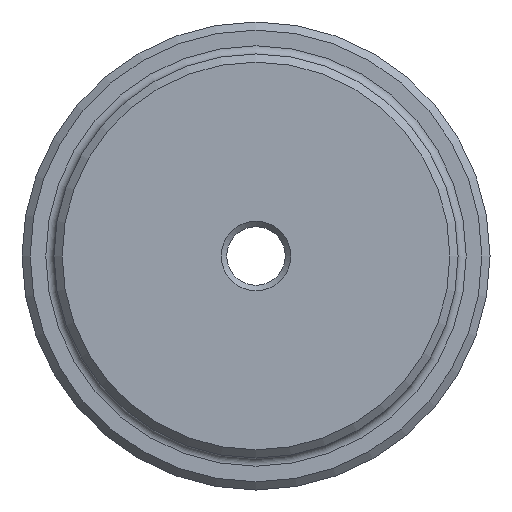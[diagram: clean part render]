
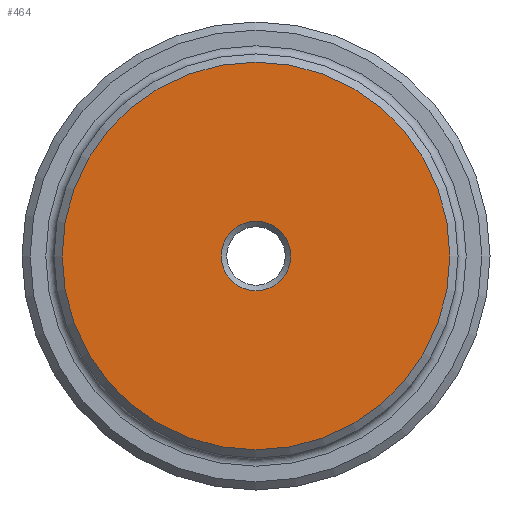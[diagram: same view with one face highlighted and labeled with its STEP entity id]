
A CAD part, left-side view. The second image highlights one B-rep face of the part: STEP entity #464.
In plain terms, the highlighted planar face has unit normal (-1, 0, 0).
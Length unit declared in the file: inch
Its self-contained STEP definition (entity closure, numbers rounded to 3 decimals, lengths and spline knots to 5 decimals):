
#127 = DIRECTION ( 'NONE',  ( 0., 0., -1. ) ) ;
#218 = CIRCLE ( 'NONE', #741, 1.425 ) ;
#250 = VERTEX_POINT ( 'NONE', #1330 ) ;
#365 = FACE_BOUND ( 'NONE', #1738, .T. ) ;
#373 = CARTESIAN_POINT ( 'NONE',  ( 0., 0., 0. ) ) ;
#399 = VERTEX_POINT ( 'NONE', #664 ) ;
#423 = DIRECTION ( 'NONE',  ( 1., 0., 0. ) ) ;
#464 = ADVANCED_FACE ( 'NONE', ( #365, #593 ), #750, .F. ) ;
#568 = EDGE_CURVE ( 'NONE', #399, #399, #218, .T. ) ;
#591 = ORIENTED_EDGE ( 'NONE', *, *, #1215, .T. ) ;
#593 = FACE_OUTER_BOUND ( 'NONE', #836, .T. ) ;
#661 = DIRECTION ( 'NONE',  ( 0., 0., -1. ) ) ;
#664 = CARTESIAN_POINT ( 'NONE',  ( 0., 0., -1.425 ) ) ;
#741 = AXIS2_PLACEMENT_3D ( 'NONE', #373, #887, #1014 ) ;
#750 = PLANE ( 'NONE',  #868 ) ;
#836 = EDGE_LOOP ( 'NONE', ( #1127 ) ) ;
#868 = AXIS2_PLACEMENT_3D ( 'NONE', #1817, #423, #661 ) ;
#887 = DIRECTION ( 'NONE',  ( -1., 0., 0. ) ) ;
#1014 = DIRECTION ( 'NONE',  ( 0., 0., -1. ) ) ;
#1080 = CARTESIAN_POINT ( 'NONE',  ( 0., 0., 0. ) ) ;
#1127 = ORIENTED_EDGE ( 'NONE', *, *, #568, .T. ) ;
#1215 = EDGE_CURVE ( 'NONE', #250, #250, #1247, .T. ) ;
#1247 = CIRCLE ( 'NONE', #1833, 0.255 ) ;
#1330 = CARTESIAN_POINT ( 'NONE',  ( 0., 0., -0.255 ) ) ;
#1591 = DIRECTION ( 'NONE',  ( 1., 0., 0. ) ) ;
#1738 = EDGE_LOOP ( 'NONE', ( #591 ) ) ;
#1817 = CARTESIAN_POINT ( 'NONE',  ( 0., 0., 0. ) ) ;
#1833 = AXIS2_PLACEMENT_3D ( 'NONE', #1080, #1591, #127 ) ;
